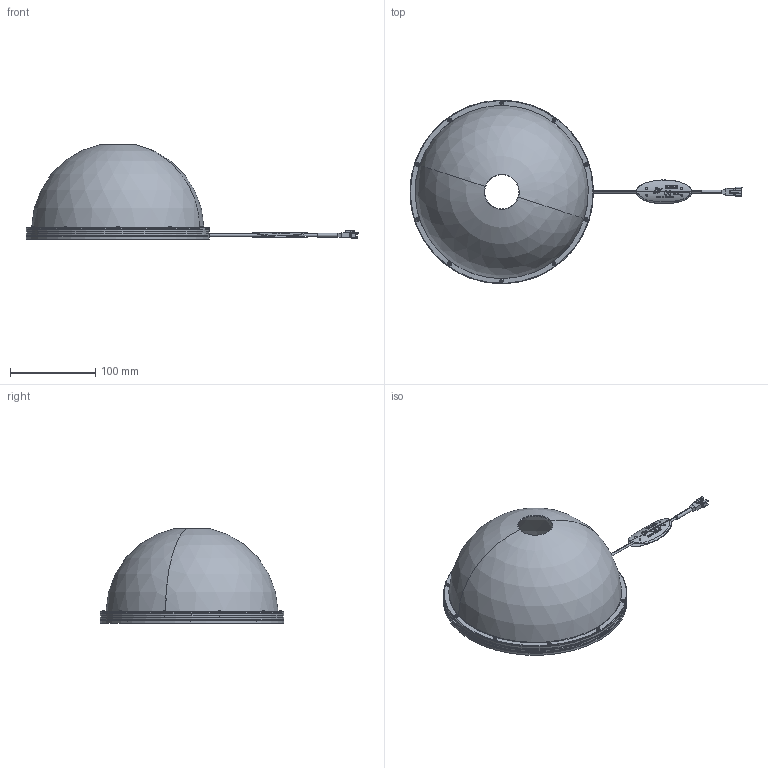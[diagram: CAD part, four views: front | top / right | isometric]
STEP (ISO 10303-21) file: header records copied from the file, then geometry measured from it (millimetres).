
FILE_DESCRIPTION(('STEP AP214'),'1');
FILE_NAME('VDO-215_DRAWING_3D.step','2023-09-12T10:36:21',(' '),(' '),'Spatial InterOp 3D',' ',' ');
FILE_SCHEMA(('AUTOMOTIVE_DESIGN { 1 0 10303 214 1 1 1 1 }'));
Length unit declared in the file: millimetre
Products named in the file (10): CABEL TAG (VS); 3P; REFLETOR; DOME_215; BASE_215; R7M-1; INSULOK; OFA249A; MXB4949
Assembly tree (25 placements, depth 2):
  (unnamed)
    CABEL TAG (VS)
    3P
    REFLETOR
    DOME_215
    BASE_215
    R7M-1
    INSULOK
    OFA249A  x8
    MXB4949  x10
Bounding box: 389 x 215 x 111.01 mm (x, y, z)
Volume: 235175.6 mm3; surface area: 223130.2 mm2
Topology: 50 solids, 51 shells, 1015 faces, 2767 edges, 1885 vertices
Faces by surface type: plane 463, cylinder 385, sphere 64, cone 59, torus 38, bspline 6
Entity records: 27251 total; most frequent: CARTESIAN_POINT 5951, ORIENTED_EDGE 3510, DIRECTION 3198, EDGE_CURVE 1755, VERTEX_POINT 1251, AXIS2_PLACEMENT_3D 1160, LINE 878, VECTOR 878
